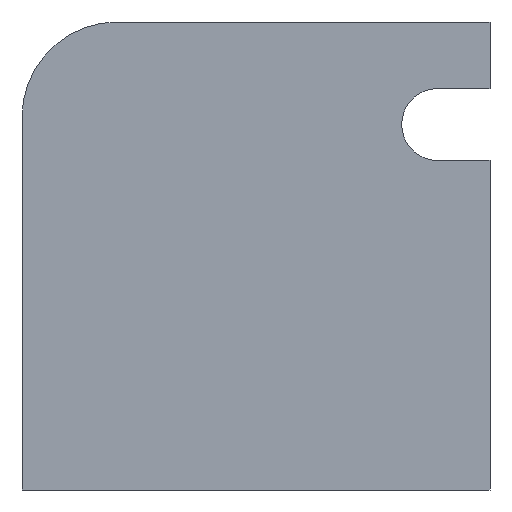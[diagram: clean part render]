
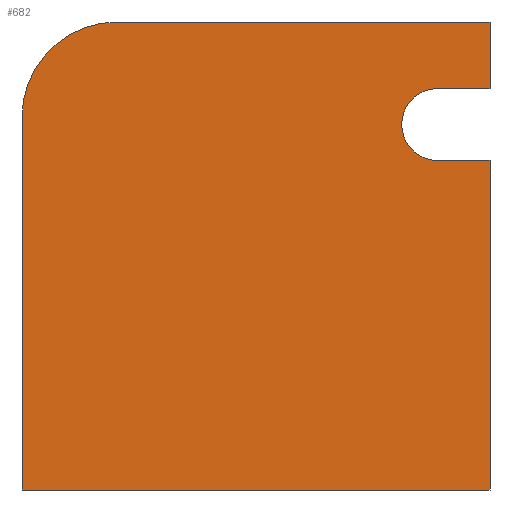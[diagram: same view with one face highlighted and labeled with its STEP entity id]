
A CAD part, left-side view. The second image highlights one B-rep face of the part: STEP entity #682.
In plain terms, the highlighted planar face has unit normal (-1, 0, 0).
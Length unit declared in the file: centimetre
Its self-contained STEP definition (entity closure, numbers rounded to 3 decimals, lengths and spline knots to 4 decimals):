
#5 = EDGE_CURVE ( 'NONE', #970, #537, #390, .T. ) ;
#8 = VECTOR ( 'NONE', #691, 100. ) ;
#16 = CARTESIAN_POINT ( 'NONE',  ( 0., 1000., 1000. ) ) ;
#32 = ORIENTED_EDGE ( 'NONE', *, *, #858, .F. ) ;
#72 = ORIENTED_EDGE ( 'NONE', *, *, #794, .T. ) ;
#75 = CARTESIAN_POINT ( 'NONE',  ( 0., 0., 1000. ) ) ;
#81 = LINE ( 'NONE', #620, #680 ) ;
#92 = DIRECTION ( 'NONE',  ( 0., 0., -1. ) ) ;
#105 = EDGE_CURVE ( 'NONE', #510, #652, #745, .T. ) ;
#137 = VERTEX_POINT ( 'NONE', #142 ) ;
#142 = CARTESIAN_POINT ( 'NONE',  ( 0., 0., 857.809 ) ) ;
#144 = AXIS2_PLACEMENT_3D ( 'NONE', #625, #486, #790 ) ;
#152 = CARTESIAN_POINT ( 'NONE',  ( 0., 796.4744, 1000. ) ) ;
#161 = DIRECTION ( 'NONE',  ( 0., 0., -1. ) ) ;
#164 = CIRCLE ( 'NONE', #464, 76.8433 ) ;
#172 = VERTEX_POINT ( 'NONE', #301 ) ;
#186 = PLANE ( 'NONE',  #144 ) ;
#198 = VERTEX_POINT ( 'NONE', #839 ) ;
#202 = EDGE_CURVE ( 'NONE', #854, #751, #164, .T. ) ;
#216 = DIRECTION ( 'NONE',  ( 0., 0., -1. ) ) ;
#247 = ORIENTED_EDGE ( 'NONE', *, *, #349, .T. ) ;
#250 = EDGE_CURVE ( 'NONE', #198, #652, #847, .T. ) ;
#259 = VECTOR ( 'NONE', #379, 100. ) ;
#263 = DIRECTION ( 'NONE',  ( 0., 1., 0. ) ) ;
#281 = LINE ( 'NONE', #357, #829 ) ;
#289 = EDGE_CURVE ( 'NONE', #537, #137, #81, .T. ) ;
#301 = CARTESIAN_POINT ( 'NONE',  ( 0., 1000., 796.4744 ) ) ;
#308 = CARTESIAN_POINT ( 'NONE',  ( 0., 0., 704.1224 ) ) ;
#340 = CARTESIAN_POINT ( 'NONE',  ( 0., 111.9542, 857.809 ) ) ;
#349 = EDGE_CURVE ( 'NONE', #970, #172, #765, .T. ) ;
#357 = CARTESIAN_POINT ( 'NONE',  ( 0., 1000., 1000. ) ) ;
#372 = ORIENTED_EDGE ( 'NONE', *, *, #105, .F. ) ;
#379 = DIRECTION ( 'NONE',  ( 0., -1., 0. ) ) ;
#390 = LINE ( 'NONE', #16, #8 ) ;
#394 = ORIENTED_EDGE ( 'NONE', *, *, #618, .F. ) ;
#396 = EDGE_LOOP ( 'NONE', ( #372, #32, #705, #394, #812, #966, #247, #72, #456 ) ) ;
#398 = CARTESIAN_POINT ( 'NONE',  ( 0., 0., 0. ) ) ;
#410 = LINE ( 'NONE', #340, #923 ) ;
#419 = CARTESIAN_POINT ( 'NONE',  ( 0., 796.4744, 796.4744 ) ) ;
#456 = ORIENTED_EDGE ( 'NONE', *, *, #250, .T. ) ;
#464 = AXIS2_PLACEMENT_3D ( 'NONE', #479, #471, #161 ) ;
#471 = DIRECTION ( 'NONE',  ( -1., 0., 0. ) ) ;
#479 = CARTESIAN_POINT ( 'NONE',  ( 0., 111.9542, 780.9657 ) ) ;
#486 = DIRECTION ( 'NONE',  ( 1., 0., 0. ) ) ;
#510 = VERTEX_POINT ( 'NONE', #729 ) ;
#537 = VERTEX_POINT ( 'NONE', #570 ) ;
#541 = VECTOR ( 'NONE', #216, 100. ) ;
#562 = VECTOR ( 'NONE', #857, 100. ) ;
#570 = CARTESIAN_POINT ( 'NONE',  ( 0., 0., 1000. ) ) ;
#618 = EDGE_CURVE ( 'NONE', #137, #854, #410, .T. ) ;
#620 = CARTESIAN_POINT ( 'NONE',  ( 0., 0., 1000. ) ) ;
#625 = CARTESIAN_POINT ( 'NONE',  ( 0., 1000., 1000. ) ) ;
#652 = VERTEX_POINT ( 'NONE', #398 ) ;
#680 = VECTOR ( 'NONE', #92, 100. ) ;
#682 = ADVANCED_FACE ( 'NONE', ( #696 ), #186, .F. ) ;
#683 = CARTESIAN_POINT ( 'NONE',  ( 0., 111.9542, 857.809 ) ) ;
#691 = DIRECTION ( 'NONE',  ( 0., -1., 0. ) ) ;
#696 = FACE_OUTER_BOUND ( 'NONE', #396, .T. ) ;
#698 = AXIS2_PLACEMENT_3D ( 'NONE', #419, #872, #878 ) ;
#704 = CARTESIAN_POINT ( 'NONE',  ( 0., 1000., 0. ) ) ;
#705 = ORIENTED_EDGE ( 'NONE', *, *, #202, .F. ) ;
#717 = CARTESIAN_POINT ( 'NONE',  ( 0., 111.9542, 704.1224 ) ) ;
#729 = CARTESIAN_POINT ( 'NONE',  ( 0., 0., 704.1224 ) ) ;
#745 = LINE ( 'NONE', #75, #541 ) ;
#751 = VERTEX_POINT ( 'NONE', #717 ) ;
#762 = LINE ( 'NONE', #308, #259 ) ;
#765 = CIRCLE ( 'NONE', #698, 203.5256 ) ;
#790 = DIRECTION ( 'NONE',  ( 0., 0., -1. ) ) ;
#794 = EDGE_CURVE ( 'NONE', #172, #198, #281, .T. ) ;
#801 = DIRECTION ( 'NONE',  ( 0., 0., -1. ) ) ;
#812 = ORIENTED_EDGE ( 'NONE', *, *, #289, .F. ) ;
#829 = VECTOR ( 'NONE', #801, 100. ) ;
#839 = CARTESIAN_POINT ( 'NONE',  ( 0., 1000., 0. ) ) ;
#847 = LINE ( 'NONE', #704, #562 ) ;
#854 = VERTEX_POINT ( 'NONE', #683 ) ;
#857 = DIRECTION ( 'NONE',  ( 0., -1., 0. ) ) ;
#858 = EDGE_CURVE ( 'NONE', #751, #510, #762, .T. ) ;
#872 = DIRECTION ( 'NONE',  ( -1., 0., 0. ) ) ;
#878 = DIRECTION ( 'NONE',  ( 0., 0., -1. ) ) ;
#923 = VECTOR ( 'NONE', #263, 100. ) ;
#966 = ORIENTED_EDGE ( 'NONE', *, *, #5, .F. ) ;
#970 = VERTEX_POINT ( 'NONE', #152 ) ;
